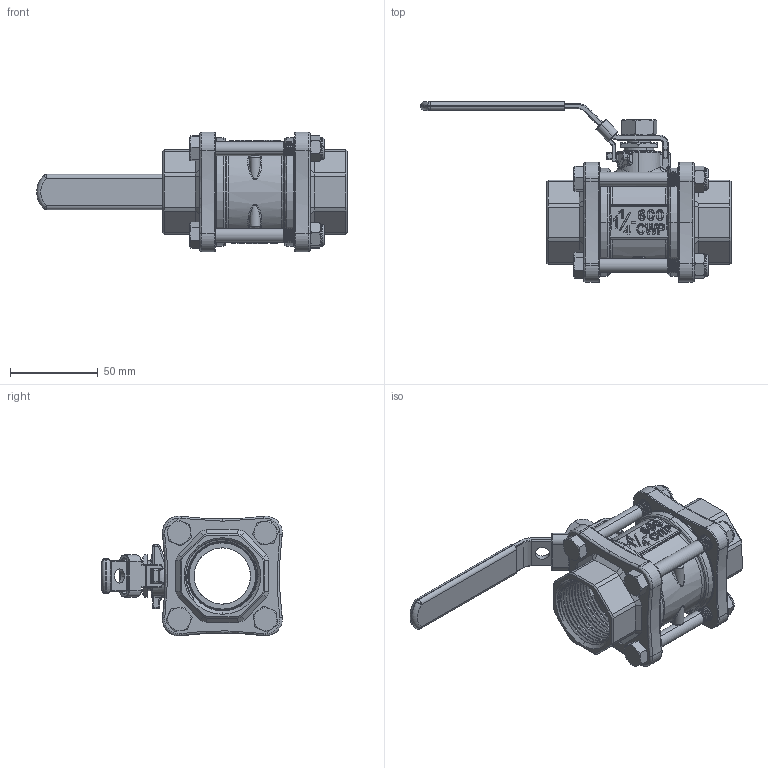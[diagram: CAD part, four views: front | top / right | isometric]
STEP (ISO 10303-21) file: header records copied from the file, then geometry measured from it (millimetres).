
FILE_DESCRIPTION (( 'STEP AP203' ), '1' );
FILE_NAME ('T-32.STEP', '2025-02-27T05:16:59', ( 'user' ), ( '' ), 'SwSTEP 2.0', 'SolidWorks 2012', '' );
FILE_SCHEMA (( 'CONFIG_CONTROL_DESIGN' ));
Products named in the file (17): T-32; 15-HANDLE NUT; 掛鎖; 14-HANDLE COVER; 13-HANDLE; 12-CAP BOLT; 11-CAP NUT; 10-GLAND; 9-BODY SEAL; 8-GLAND PACKING; 7-O-RING; 6-THRUST WASHER; 5-SEAT; 4-STEM; 1-BODY; 2-CAP; 3-BALL
Assembly tree (26 placements, depth 2):
  T-32
    1-BODY
    2-CAP  x2
    3-BALL
    4-STEM
    5-SEAT  x2
    6-THRUST WASHER
    7-O-RING  x2
    8-GLAND PACKING
    9-BODY SEAL  x2
    10-GLAND
    11-CAP NUT  x4
    12-CAP BOLT  x4
    13-HANDLE
    14-HANDLE COVER
    掛鎖
    15-HANDLE NUT
Bounding box: 176.64 x 102.7 x 68.21 mm (x, y, z)
Volume: 201890.7 mm3; surface area: 112256 mm2
Topology: 26 solids, 26 shells, 1733 faces, 4315 edges, 2621 vertices
Faces by surface type: cylinder 534, bspline 388, plane 377, cone 250, torus 134, sphere 50
Entity records: 84539 total; most frequent: CARTESIAN_POINT 56625, ORIENTED_EDGE 5908, DIRECTION 4760, EDGE_CURVE 2954, AXIS2_PLACEMENT_3D 1937, VERTEX_POINT 1797, EDGE_LOOP 1301, ADVANCED_FACE 1226
